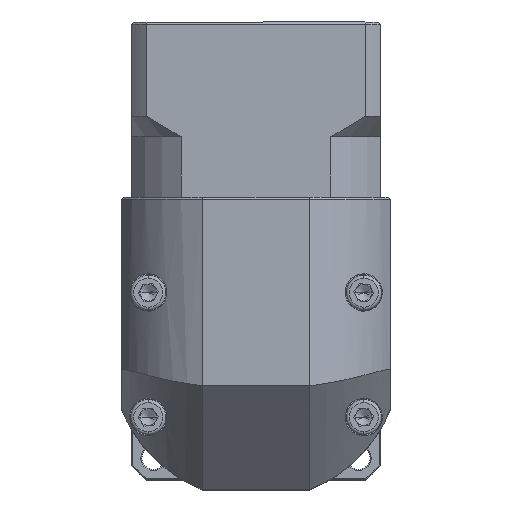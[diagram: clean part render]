
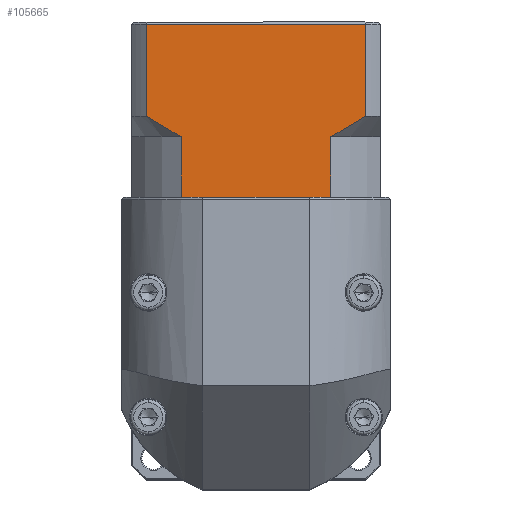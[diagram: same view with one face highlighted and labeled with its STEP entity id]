
A CAD part, top view. The second image highlights one B-rep face of the part: STEP entity #105665.
In plain terms, the highlighted planar face has unit normal (0, 0, 1).
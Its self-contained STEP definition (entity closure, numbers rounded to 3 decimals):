
#1100 = CARTESIAN_POINT ( 'NONE',  ( -91.767, 62.512, 82.485 ) ) ;
#2525 = VECTOR ( 'NONE', #52348, 1000. ) ;
#3153 = EDGE_CURVE ( 'NONE', #51528, #45839, #19131, .T. ) ;
#5061 = VERTEX_POINT ( 'NONE', #65674 ) ;
#5065 = DIRECTION ( 'NONE',  ( 0., 0., -1. ) ) ;
#5401 = CARTESIAN_POINT ( 'NONE',  ( -102.287, 89.464, 82.485 ) ) ;
#5470 = CARTESIAN_POINT ( 'NONE',  ( -48.572, 64.988, 82.485 ) ) ;
#5520 = VECTOR ( 'NONE', #29477, 1000. ) ;
#5975 = CARTESIAN_POINT ( 'NONE',  ( -90.315, 61.764, 82.485 ) ) ;
#10027 = EDGE_CURVE ( 'NONE', #51528, #33723, #94375, .T. ) ;
#11854 = LINE ( 'NONE', #80196, #5520 ) ;
#14352 = VERTEX_POINT ( 'NONE', #21875 ) ;
#14414 = LINE ( 'NONE', #17473, #55298 ) ;
#15590 = LINE ( 'NONE', #80875, #74454 ) ;
#17473 = CARTESIAN_POINT ( 'NONE',  ( -45.83, 61.764, 82.485 ) ) ;
#19131 = LINE ( 'NONE', #60589, #2525 ) ;
#20235 = EDGE_CURVE ( 'NONE', #100923, #5061, #11854, .T. ) ;
#20761 = CARTESIAN_POINT ( 'NONE',  ( -102.287, 47.264, 82.485 ) ) ;
#21875 = CARTESIAN_POINT ( 'NONE',  ( -45.83, 88.964, 82.485 ) ) ;
#21911 = EDGE_CURVE ( 'NONE', #75681, #90960, #22026, .T. ) ;
#22026 = LINE ( 'NONE', #29733, #103742 ) ;
#24923 = VERTEX_POINT ( 'NONE', #5975 ) ;
#25070 = CARTESIAN_POINT ( 'NONE',  ( -93.198, 63.315, 82.485 ) ) ;
#25124 = EDGE_LOOP ( 'NONE', ( #44124, #27908, #36624, #52472, #86786, #74456, #25256, #52008, #82698, #97015 ) ) ;
#25256 = ORIENTED_EDGE ( 'NONE', *, *, #20235, .T. ) ;
#27033 = CARTESIAN_POINT ( 'NONE',  ( -98.745, 88.964, 82.485 ) ) ;
#27908 = ORIENTED_EDGE ( 'NONE', *, *, #71416, .T. ) ;
#29477 = DIRECTION ( 'NONE',  ( 1., 0., 0. ) ) ;
#29733 = CARTESIAN_POINT ( 'NONE',  ( -98.745, 61.764, 82.485 ) ) ;
#31984 = CARTESIAN_POINT ( 'NONE',  ( -98.745, 66.764, 82.485 ) ) ;
#32119 = FACE_OUTER_BOUND ( 'NONE', #25124, .T. ) ;
#33723 = VERTEX_POINT ( 'NONE', #71520 ) ;
#36624 = ORIENTED_EDGE ( 'NONE', *, *, #21911, .F. ) ;
#37978 = DIRECTION ( 'NONE',  ( 0., 1., 0. ) ) ;
#38720 = CARTESIAN_POINT ( 'NONE',  ( -51.377, 63.314, 82.485 ) ) ;
#39352 = EDGE_CURVE ( 'NONE', #67367, #24923, #80810, .T. ) ;
#39748 = CARTESIAN_POINT ( 'NONE',  ( -54.259, 61.764, 82.485 ) ) ;
#40299 = DIRECTION ( 'NONE',  ( 0., 1., 0. ) ) ;
#40450 = CARTESIAN_POINT ( 'NONE',  ( -98.745, 66.764, 82.485 ) ) ;
#41868 = EDGE_CURVE ( 'NONE', #14352, #33723, #14414, .T. ) ;
#44124 = ORIENTED_EDGE ( 'NONE', *, *, #41868, .F. ) ;
#45839 = VERTEX_POINT ( 'NONE', #82634 ) ;
#50152 = VECTOR ( 'NONE', #40299, 1000. ) ;
#51528 = VERTEX_POINT ( 'NONE', #39748 ) ;
#52008 = ORIENTED_EDGE ( 'NONE', *, *, #87490, .T. ) ;
#52348 = DIRECTION ( 'NONE',  ( 0., -1., 0. ) ) ;
#52472 = ORIENTED_EDGE ( 'NONE', *, *, #74234, .T. ) ;
#55298 = VECTOR ( 'NONE', #90307, 1000. ) ;
#55479 = CARTESIAN_POINT ( 'NONE',  ( -47.192, 65.862, 82.485 ) ) ;
#60589 = CARTESIAN_POINT ( 'NONE',  ( -54.259, 61.764, 82.485 ) ) ;
#62271 = CARTESIAN_POINT ( 'NONE',  ( -52.803, 62.514, 82.485 ) ) ;
#65418 = CARTESIAN_POINT ( 'NONE',  ( -96.006, 64.991, 82.485 ) ) ;
#65674 = CARTESIAN_POINT ( 'NONE',  ( -55.25, 47.264, 82.485 ) ) ;
#67367 = VERTEX_POINT ( 'NONE', #79431 ) ;
#70879 = CARTESIAN_POINT ( 'NONE',  ( -45.83, 66.764, 82.485 ) ) ;
#71416 = EDGE_CURVE ( 'NONE', #14352, #90960, #90026, .T. ) ;
#71520 = CARTESIAN_POINT ( 'NONE',  ( -45.83, 66.764, 82.485 ) ) ;
#73476 = CARTESIAN_POINT ( 'NONE',  ( -89.324, 47.264, 82.485 ) ) ;
#73711 = VECTOR ( 'NONE', #76842, 1000. ) ;
#73720 = EDGE_CURVE ( 'NONE', #67367, #100923, #15590, .T. ) ;
#74234 = EDGE_CURVE ( 'NONE', #75681, #24923, #80309, .T. ) ;
#74454 = VECTOR ( 'NONE', #105501, 1000. ) ;
#74456 = ORIENTED_EDGE ( 'NONE', *, *, #73720, .T. ) ;
#75681 = VERTEX_POINT ( 'NONE', #31984 ) ;
#76842 = DIRECTION ( 'NONE',  ( 1., 0., 0. ) ) ;
#78336 = CARTESIAN_POINT ( 'NONE',  ( -54.259, 61.764, 82.485 ) ) ;
#79431 = CARTESIAN_POINT ( 'NONE',  ( -90.315, 47.264, 82.485 ) ) ;
#80154 = CARTESIAN_POINT ( 'NONE',  ( -102.287, 88.964, 82.485 ) ) ;
#80196 = CARTESIAN_POINT ( 'NONE',  ( -102.287, 47.264, 82.485 ) ) ;
#80309 = B_SPLINE_CURVE_WITH_KNOTS ( 'NONE', 3,
 ( #40450, #90355, #65418, #25070, #1100, #82146 ),
 .UNSPECIFIED., .F., .F.,
 ( 4, 2, 4 ),
 ( 0.052, 0.057, 0.062 ),
 .UNSPECIFIED. ) ;
#80810 = LINE ( 'NONE', #81653, #50152 ) ;
#80875 = CARTESIAN_POINT ( 'NONE',  ( -102.287, 47.264, 82.485 ) ) ;
#81653 = CARTESIAN_POINT ( 'NONE',  ( -90.315, 61.764, 82.485 ) ) ;
#82146 = CARTESIAN_POINT ( 'NONE',  ( -90.315, 61.764, 82.485 ) ) ;
#82634 = CARTESIAN_POINT ( 'NONE',  ( -54.259, 47.264, 82.485 ) ) ;
#82698 = ORIENTED_EDGE ( 'NONE', *, *, #3153, .F. ) ;
#86268 = AXIS2_PLACEMENT_3D ( 'NONE', #5401, #5065, #87549 ) ;
#86786 = ORIENTED_EDGE ( 'NONE', *, *, #39352, .F. ) ;
#87490 = EDGE_CURVE ( 'NONE', #5061, #45839, #105599, .T. ) ;
#87549 = DIRECTION ( 'NONE',  ( 0., 1., 0. ) ) ;
#89047 = DIRECTION ( 'NONE',  ( -1., 0., 0. ) ) ;
#90026 = LINE ( 'NONE', #80154, #92542 ) ;
#90307 = DIRECTION ( 'NONE',  ( 0., -1., 0. ) ) ;
#90355 = CARTESIAN_POINT ( 'NONE',  ( -97.385, 65.864, 82.485 ) ) ;
#90960 = VERTEX_POINT ( 'NONE', #27033 ) ;
#92542 = VECTOR ( 'NONE', #89047, 1000. ) ;
#94375 = B_SPLINE_CURVE_WITH_KNOTS ( 'NONE', 3,
 ( #78336, #62271, #38720, #5470, #55479, #70879 ),
 .UNSPECIFIED., .F., .F.,
 ( 4, 2, 4 ),
 ( 0.1, 0.104, 0.109 ),
 .UNSPECIFIED. ) ;
#97015 = ORIENTED_EDGE ( 'NONE', *, *, #10027, .T. ) ;
#100923 = VERTEX_POINT ( 'NONE', #73476 ) ;
#103557 = PLANE ( 'NONE',  #86268 ) ;
#103742 = VECTOR ( 'NONE', #37978, 1000. ) ;
#105501 = DIRECTION ( 'NONE',  ( 1., 0., 0. ) ) ;
#105599 = LINE ( 'NONE', #20761, #73711 ) ;
#105665 = ADVANCED_FACE ( 'NONE', ( #32119 ), #103557, .F. ) ;
